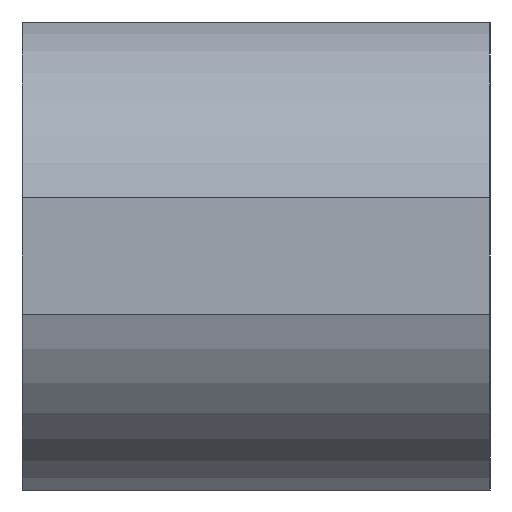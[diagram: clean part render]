
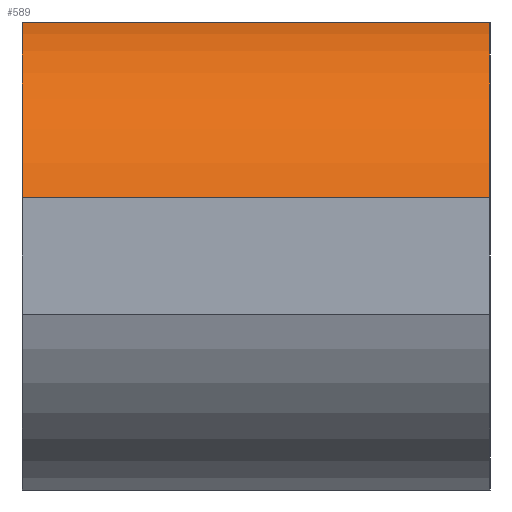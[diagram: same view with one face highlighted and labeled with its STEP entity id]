
A CAD part, left-side view. The second image highlights one B-rep face of the part: STEP entity #589.
In plain terms, the highlighted cylindrical face has radius 17 mm (diameter 34 mm), a partial arc.
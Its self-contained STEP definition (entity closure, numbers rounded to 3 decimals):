
#36 = VECTOR ( 'NONE', #598, 1000. ) ;
#54 = LINE ( 'NONE', #107, #36 ) ;
#77 = EDGE_CURVE ( 'NONE', #568, #225, #79, .T. ) ;
#78 = CARTESIAN_POINT ( 'NONE',  ( -16.5, 16.5, 4.093 ) ) ;
#79 = CIRCLE ( 'NONE', #640, 17. ) ;
#107 = CARTESIAN_POINT ( 'NONE',  ( -16.5, 16.5, 4.093 ) ) ;
#133 = AXIS2_PLACEMENT_3D ( 'NONE', #305, #295, #241 ) ;
#161 = VERTEX_POINT ( 'NONE', #463 ) ;
#180 = CIRCLE ( 'NONE', #273, 17. ) ;
#183 = EDGE_CURVE ( 'NONE', #529, #161, #180, .T. ) ;
#197 = CARTESIAN_POINT ( 'NONE',  ( 0., -16.5, 0. ) ) ;
#225 = VERTEX_POINT ( 'NONE', #416 ) ;
#233 = ORIENTED_EDGE ( 'NONE', *, *, #389, .T. ) ;
#241 = DIRECTION ( 'NONE',  ( 0., 0., -1. ) ) ;
#252 = CYLINDRICAL_SURFACE ( 'NONE', #133, 17. ) ;
#273 = AXIS2_PLACEMENT_3D ( 'NONE', #197, #562, #608 ) ;
#282 = CARTESIAN_POINT ( 'NONE',  ( 0., 16.5, 0. ) ) ;
#294 = VECTOR ( 'NONE', #700, 1000. ) ;
#295 = DIRECTION ( 'NONE',  ( 0., -1., 0. ) ) ;
#305 = CARTESIAN_POINT ( 'NONE',  ( 0., 16.5, 0. ) ) ;
#346 = DIRECTION ( 'NONE',  ( 0., 0., 1. ) ) ;
#347 = FACE_OUTER_BOUND ( 'NONE', #637, .T. ) ;
#371 = ORIENTED_EDGE ( 'NONE', *, *, #77, .F. ) ;
#386 = CARTESIAN_POINT ( 'NONE',  ( -4.093, 16.5, 16.5 ) ) ;
#389 = EDGE_CURVE ( 'NONE', #568, #529, #54, .T. ) ;
#416 = CARTESIAN_POINT ( 'NONE',  ( -4.093, 16.5, 16.5 ) ) ;
#441 = EDGE_CURVE ( 'NONE', #161, #225, #649, .T. ) ;
#456 = CARTESIAN_POINT ( 'NONE',  ( -16.5, -16.5, 4.093 ) ) ;
#463 = CARTESIAN_POINT ( 'NONE',  ( -4.093, -16.5, 16.5 ) ) ;
#529 = VERTEX_POINT ( 'NONE', #456 ) ;
#562 = DIRECTION ( 'NONE',  ( 0., 1., 0. ) ) ;
#568 = VERTEX_POINT ( 'NONE', #78 ) ;
#571 = ORIENTED_EDGE ( 'NONE', *, *, #441, .T. ) ;
#589 = ADVANCED_FACE ( 'NONE', ( #347 ), #252, .T. ) ;
#598 = DIRECTION ( 'NONE',  ( 0., -1., 0. ) ) ;
#608 = DIRECTION ( 'NONE',  ( 0., 0., 1. ) ) ;
#626 = ORIENTED_EDGE ( 'NONE', *, *, #183, .T. ) ;
#637 = EDGE_LOOP ( 'NONE', ( #371, #233, #626, #571 ) ) ;
#640 = AXIS2_PLACEMENT_3D ( 'NONE', #282, #701, #346 ) ;
#649 = LINE ( 'NONE', #386, #294 ) ;
#700 = DIRECTION ( 'NONE',  ( 0., 1., 0. ) ) ;
#701 = DIRECTION ( 'NONE',  ( 0., 1., 0. ) ) ;
